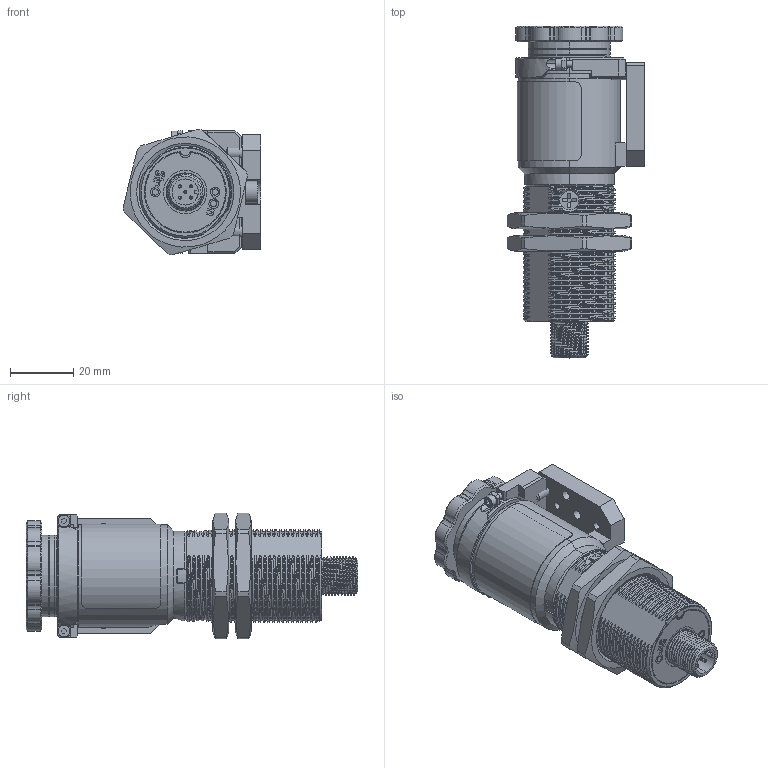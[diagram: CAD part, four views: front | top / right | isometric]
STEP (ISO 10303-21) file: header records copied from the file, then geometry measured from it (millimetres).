
FILE_DESCRIPTION (( 'STEP AP214' ), '1' );
FILE_NAME ('LSLx100_Customer_CAD_Rev_B.STEP', '2025-01-20T17:10:36', ( '' ), ( '' ), 'SwSTEP 2.0', 'SolidWorks 2021', '' );
FILE_SCHEMA (( 'AUTOMOTIVE_DESIGN' ));
Length unit declared in the file: millimetre
Products named in the file (11): Locking ring; M2; LSLx100_Customer_CAD_Rev_B; LEDS; LABEL; Top locking ring; Z-SPOT Customer CAD; Lens adjuster; M30 x 1.5 NUT; Bracket for Z-SPOT lock ring; M4-cap-adjust_M4x6_1
Assembly tree (14 placements, depth 2):
  LSLx100_Customer_CAD_Rev_B
    Z-SPOT Customer CAD
    Lens adjuster
    Locking ring
    Top locking ring
    M2  x2
    LABEL
    LEDS
    M30 x 1.5 NUT  x2
    Bracket for Z-SPOT lock ring
    M4-cap-adjust_M4x6_1  x3
Bounding box: 43.74 x 105.3 x 39.88 mm (x, y, z)
Volume: 79471.5 mm3; surface area: 30956.5 mm2
Topology: 15 solids, 15 shells, 1090 faces, 2925 edges, 1909 vertices
Faces by surface type: cylinder 392, plane 292, bspline 243, cone 163
Entity records: 252406 total; most frequent: CARTESIAN_POINT 228485, ORIENTED_EDGE 5498, DIRECTION 4005, EDGE_CURVE 2749, VERTEX_POINT 1799, AXIS2_PLACEMENT_3D 1455, EDGE_LOOP 1102, VECTOR 1095
